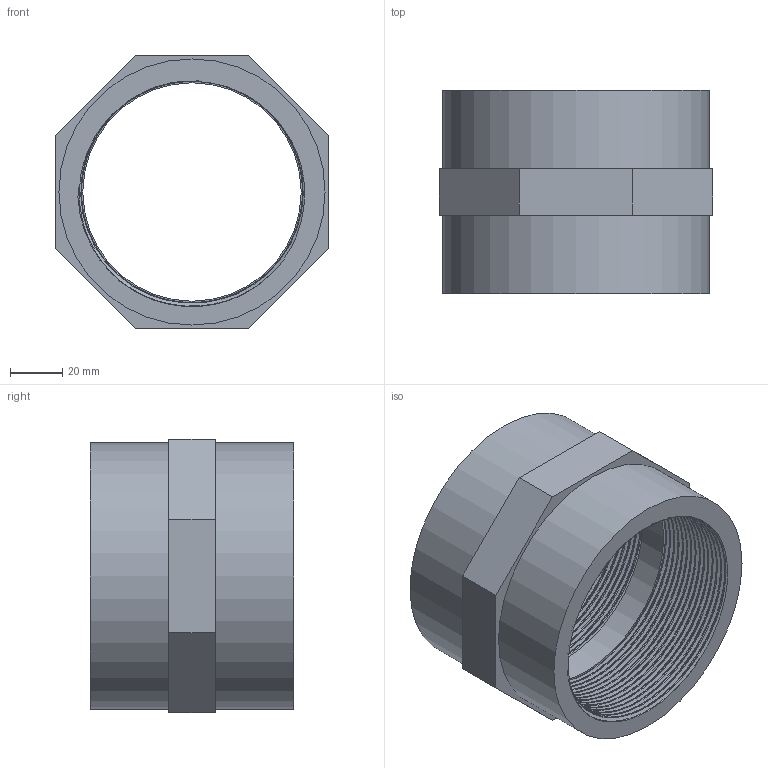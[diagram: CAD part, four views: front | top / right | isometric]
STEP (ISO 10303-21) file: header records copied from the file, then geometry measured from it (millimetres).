
FILE_DESCRIPTION(/* description */ ('PVC manicotto filettato BSP femmina'),/* implementation_level */ '2;1');
FILE_NAME(/* name */ 'C:\Users\POLYPIPE\Desktop\DATASET INVENTOR\LIBRERIA EFFAST\RACCORDI 3DxWEB\RER\3D_RERMAE\3D_RERMAE090I.stp',/* time_stamp */ '2018-01-19T16:37:58+01:00',/* author */ ('POLYPIPE'),/* organization */ ('Polypipe Italia'),/* preprocessor_version */ 'ST-DEVELOPER v16.1',/* originating_system */ 'Autodesk Inventor 2016',/* authorisation */ '');
FILE_SCHEMA (('CONFIG_CONTROL_DESIGN'));
Length unit declared in the file: millimetre
Products named in the file (1): 3D_RERMAE
Bounding box: 105 x 78 x 105 mm (x, y, z)
Volume: 201272.4 mm3; surface area: 66692.7 mm2
Topology: 1 solids, 1 shells, 27 faces, 63 edges, 42 vertices
Faces by surface type: plane 14, bspline 10, cylinder 3
Full cylindrical faces by diameter (mm): 83.726 x1, 102 x2
Entity records: 12156 total; most frequent: CARTESIAN_POINT 11600, ORIENTED_EDGE 120, DIRECTION 72, EDGE_CURVE 60, VERTEX_POINT 42, EDGE_LOOP 36, B_SPLINE_CURVE_WITH_KNOTS 30, FACE_OUTER_BOUND 27
